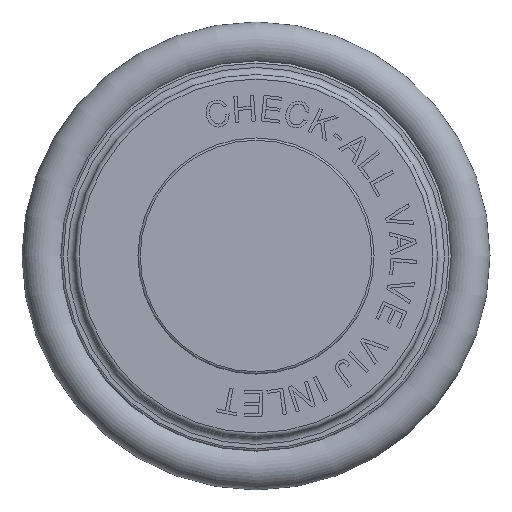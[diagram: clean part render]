
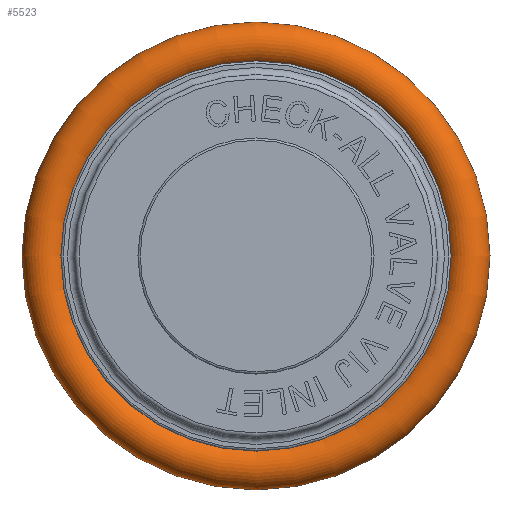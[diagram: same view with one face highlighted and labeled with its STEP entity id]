
A CAD part, left-side view. The second image highlights one B-rep face of the part: STEP entity #5523.
In plain terms, the highlighted toroidal (fillet/blend) face has major radius 23.952 mm and minor radius 2.489 mm.
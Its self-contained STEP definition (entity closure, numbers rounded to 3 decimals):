
#33=TOROIDAL_SURFACE('',#5775,23.952,2.489);
#1250=ORIENTED_EDGE('',*,*,#2334,.T.);
#1251=ORIENTED_EDGE('',*,*,#2333,.F.);
#2333=EDGE_CURVE('',#2879,#2879,#3091,.T.);
#2334=EDGE_CURVE('',#2880,#2880,#3092,.T.);
#2879=VERTEX_POINT('',#7499);
#2880=VERTEX_POINT('',#7502);
#3091=CIRCLE('',#5774,21.991);
#3092=CIRCLE('',#5776,21.991);
#3158=EDGE_LOOP('',(#1250));
#3159=EDGE_LOOP('',(#1251));
#3448=FACE_BOUND('',#3158,.T.);
#3449=FACE_BOUND('',#3159,.T.);
#5523=ADVANCED_FACE('',(#3448,#3449),#33,.T.);
#5774=AXIS2_PLACEMENT_3D('',#7498,#6223,#6224);
#5775=AXIS2_PLACEMENT_3D('',#7500,#6225,#6226);
#5776=AXIS2_PLACEMENT_3D('',#7501,#6227,#6228);
#6223=DIRECTION('',(-1.,0.,0.));
#6224=DIRECTION('',(0.,0.,1.));
#6225=DIRECTION('',(-1.,0.,0.));
#6226=DIRECTION('',(0.,0.,1.));
#6227=DIRECTION('',(-1.,0.,0.));
#6228=DIRECTION('',(0.,0.,1.));
#7498=CARTESIAN_POINT('',(18.623,0.,0.));
#7499=CARTESIAN_POINT('',(18.623,0.,21.991));
#7500=CARTESIAN_POINT('',(20.155,0.,0.));
#7501=CARTESIAN_POINT('',(21.688,0.,0.));
#7502=CARTESIAN_POINT('',(21.688,0.,21.991));
